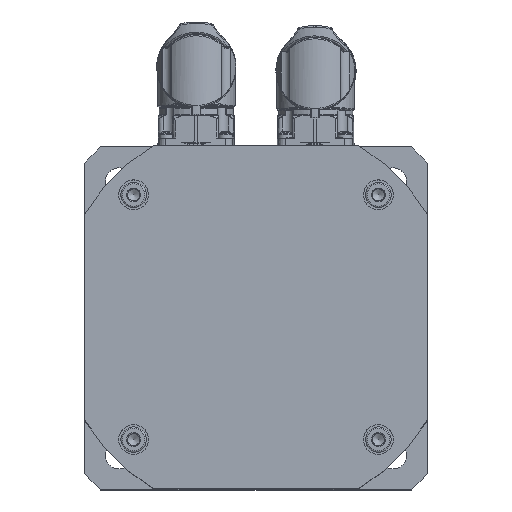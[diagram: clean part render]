
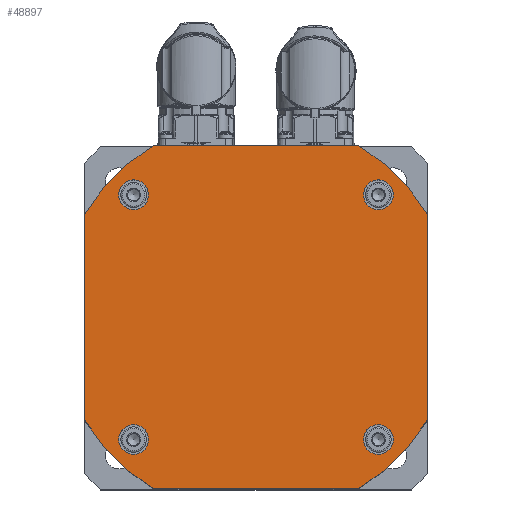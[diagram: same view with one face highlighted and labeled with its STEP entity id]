
A CAD part, top view. The second image highlights one B-rep face of the part: STEP entity #48897.
In plain terms, the highlighted planar face has unit normal (0, 0, 1).
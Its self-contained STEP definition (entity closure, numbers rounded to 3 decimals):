
#7400=FACE_BOUND('',#11566,.T.);
#7401=FACE_BOUND('',#11567,.T.);
#7402=FACE_BOUND('',#11568,.T.);
#7403=FACE_BOUND('',#11569,.T.);
#7404=FACE_BOUND('',#11570,.T.);
#7815=PLANE('',#52114);
#11566=EDGE_LOOP('',(#33661));
#11567=EDGE_LOOP('',(#33662));
#11568=EDGE_LOOP('',(#33663));
#11569=EDGE_LOOP('',(#33664));
#11570=EDGE_LOOP('',(#33665,#33666,#33667,#33668,#33669,#33670,#33671,#33672));
#14995=CIRCLE('',#52083,5.);
#14997=CIRCLE('',#52087,5.);
#14999=CIRCLE('',#52091,5.);
#15001=CIRCLE('',#52095,5.);
#15004=CIRCLE('',#52100,67.);
#15006=CIRCLE('',#52104,67.);
#15008=CIRCLE('',#52108,67.);
#15010=CIRCLE('',#52112,67.);
#17758=LINE('',#70968,#19579);
#17762=LINE('',#70980,#19583);
#17766=LINE('',#70992,#19587);
#17770=LINE('',#71002,#19591);
#19579=VECTOR('',#57903,68.782);
#19583=VECTOR('',#57915,68.782);
#19587=VECTOR('',#57927,68.782);
#19591=VECTOR('',#57939,68.782);
#21450=VERTEX_POINT('',#70932);
#21452=VERTEX_POINT('',#70938);
#21454=VERTEX_POINT('',#70944);
#21456=VERTEX_POINT('',#70950);
#21460=VERTEX_POINT('',#70959);
#21461=VERTEX_POINT('',#70961);
#21463=VERTEX_POINT('',#70967);
#21465=VERTEX_POINT('',#70973);
#21467=VERTEX_POINT('',#70979);
#21469=VERTEX_POINT('',#70985);
#21471=VERTEX_POINT('',#70991);
#21473=VERTEX_POINT('',#70997);
#26098=EDGE_CURVE('',#21450,#21450,#14995,.T.);
#26100=EDGE_CURVE('',#21452,#21452,#14997,.T.);
#26102=EDGE_CURVE('',#21454,#21454,#14999,.T.);
#26104=EDGE_CURVE('',#21456,#21456,#15001,.T.);
#26108=EDGE_CURVE('',#21461,#21460,#15004,.T.);
#26111=EDGE_CURVE('',#21463,#21461,#17758,.T.);
#26114=EDGE_CURVE('',#21465,#21463,#15006,.T.);
#26117=EDGE_CURVE('',#21467,#21465,#17762,.T.);
#26120=EDGE_CURVE('',#21469,#21467,#15008,.T.);
#26123=EDGE_CURVE('',#21471,#21469,#17766,.T.);
#26126=EDGE_CURVE('',#21473,#21471,#15010,.T.);
#26129=EDGE_CURVE('',#21460,#21473,#17770,.T.);
#33661=ORIENTED_EDGE('',*,*,#26098,.T.);
#33662=ORIENTED_EDGE('',*,*,#26100,.T.);
#33663=ORIENTED_EDGE('',*,*,#26102,.T.);
#33664=ORIENTED_EDGE('',*,*,#26104,.T.);
#33665=ORIENTED_EDGE('',*,*,#26129,.T.);
#33666=ORIENTED_EDGE('',*,*,#26126,.T.);
#33667=ORIENTED_EDGE('',*,*,#26123,.T.);
#33668=ORIENTED_EDGE('',*,*,#26120,.T.);
#33669=ORIENTED_EDGE('',*,*,#26117,.T.);
#33670=ORIENTED_EDGE('',*,*,#26114,.T.);
#33671=ORIENTED_EDGE('',*,*,#26111,.T.);
#33672=ORIENTED_EDGE('',*,*,#26108,.T.);
#48897=ADVANCED_FACE('',(#7400,#7401,#7402,#7403,#7404),#7815,.T.);
#52083=AXIS2_PLACEMENT_3D('',#70933,#57862,#57863);
#52087=AXIS2_PLACEMENT_3D('',#70939,#57870,#57871);
#52091=AXIS2_PLACEMENT_3D('',#70945,#57878,#57879);
#52095=AXIS2_PLACEMENT_3D('',#70951,#57886,#57887);
#52100=AXIS2_PLACEMENT_3D('',#70962,#57897,#57898);
#52104=AXIS2_PLACEMENT_3D('',#70974,#57909,#57910);
#52108=AXIS2_PLACEMENT_3D('',#70986,#57921,#57922);
#52112=AXIS2_PLACEMENT_3D('',#70998,#57933,#57934);
#52114=AXIS2_PLACEMENT_3D('',#71003,#57940,#57941);
#57862=DIRECTION('center_axis',(0.,0.,-1.));
#57863=DIRECTION('ref_axis',(0.,-1.,0.));
#57870=DIRECTION('center_axis',(0.,0.,-1.));
#57871=DIRECTION('ref_axis',(-1.,0.,0.));
#57878=DIRECTION('center_axis',(0.,0.,-1.));
#57879=DIRECTION('ref_axis',(0.,1.,0.));
#57886=DIRECTION('center_axis',(0.,0.,-1.));
#57887=DIRECTION('ref_axis',(1.,0.,0.));
#57897=DIRECTION('center_axis',(0.,0.,1.));
#57898=DIRECTION('ref_axis',(0.858,0.513,0.));
#57903=DIRECTION('',(0.,1.,0.));
#57909=DIRECTION('center_axis',(0.,0.,1.));
#57910=DIRECTION('ref_axis',(0.513,-0.858,0.));
#57915=DIRECTION('',(1.,0.,0.));
#57921=DIRECTION('center_axis',(0.,0.,1.));
#57922=DIRECTION('ref_axis',(-0.858,-0.513,0.));
#57927=DIRECTION('',(0.,-1.,0.));
#57933=DIRECTION('center_axis',(0.,0.,1.));
#57934=DIRECTION('ref_axis',(-0.513,0.858,0.));
#57939=DIRECTION('',(-1.,0.,0.));
#57940=DIRECTION('center_axis',(0.,0.,1.));
#57941=DIRECTION('ref_axis',(1.,0.,0.));
#70932=CARTESIAN_POINT('',(41.012,-46.012,249.5));
#70933=CARTESIAN_POINT('Origin',(41.012,-41.012,249.5));
#70938=CARTESIAN_POINT('',(-46.012,-41.012,249.5));
#70939=CARTESIAN_POINT('Origin',(-41.012,-41.012,249.5));
#70944=CARTESIAN_POINT('',(-41.012,46.012,249.5));
#70945=CARTESIAN_POINT('Origin',(-41.012,41.012,249.5));
#70950=CARTESIAN_POINT('',(46.012,41.012,249.5));
#70951=CARTESIAN_POINT('Origin',(41.012,41.012,249.5));
#70959=CARTESIAN_POINT('',(34.391,57.5,249.5));
#70961=CARTESIAN_POINT('',(57.5,34.391,249.5));
#70962=CARTESIAN_POINT('Origin',(0.,0.,249.5));
#70967=CARTESIAN_POINT('',(57.5,-34.391,249.5));
#70968=CARTESIAN_POINT('',(57.5,-57.5,249.5));
#70973=CARTESIAN_POINT('',(34.391,-57.5,249.5));
#70974=CARTESIAN_POINT('Origin',(0.,0.,249.5));
#70979=CARTESIAN_POINT('',(-34.391,-57.5,249.5));
#70980=CARTESIAN_POINT('',(-57.5,-57.5,249.5));
#70985=CARTESIAN_POINT('',(-57.5,-34.391,249.5));
#70986=CARTESIAN_POINT('Origin',(0.,0.,249.5));
#70991=CARTESIAN_POINT('',(-57.5,34.391,249.5));
#70992=CARTESIAN_POINT('',(-57.5,57.5,249.5));
#70997=CARTESIAN_POINT('',(-34.391,57.5,249.5));
#70998=CARTESIAN_POINT('Origin',(0.,0.,249.5));
#71002=CARTESIAN_POINT('',(57.5,57.5,249.5));
#71003=CARTESIAN_POINT('Origin',(0.,0.,
249.5));
